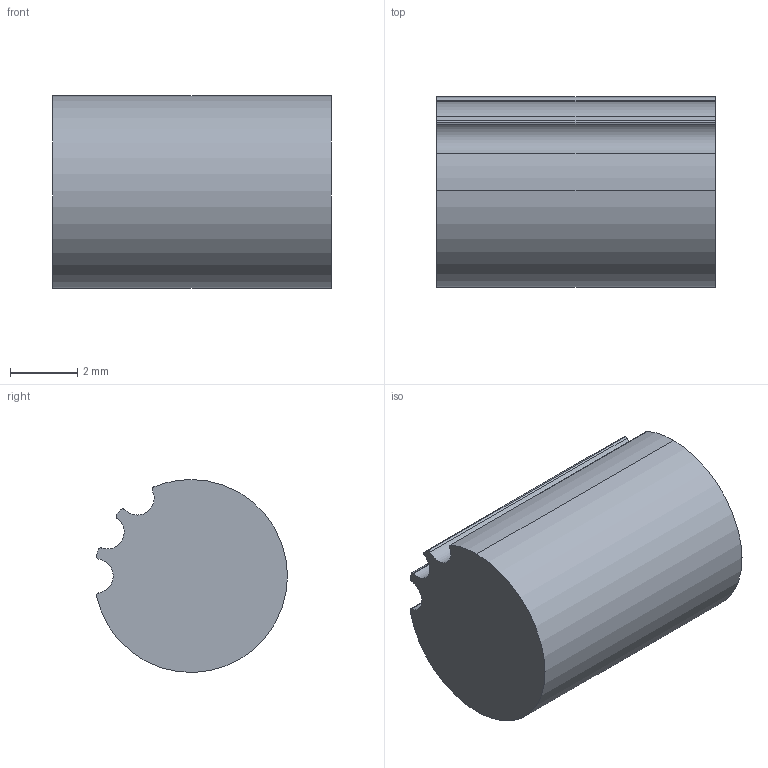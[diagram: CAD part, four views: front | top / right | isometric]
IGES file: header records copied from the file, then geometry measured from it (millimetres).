
Start section: Data from Parasolid IGES Translator 28.1.247, Copyright(c) 2006 Siemens PLM Software. All Rights Reserved.
Global section: file name: P13-1.5GT-4-33.igs; native system: By Siemens PLM Incorporated; preprocessor: XPlus GENERIC/IGES 28.1.247; author: Noname; organization: Noname; date: 20260515.060925; units: millimetre
Bounding box: 8.3 x 5.69 x 5.75 mm (x, y, z)
Surface area: 211.6 mm2 (no closed solid volume)
Topology: 0 solids, 0 shells, 17 faces, 90 edges, 90 vertices
Faces by surface type: revolution 15, extrusion 2
